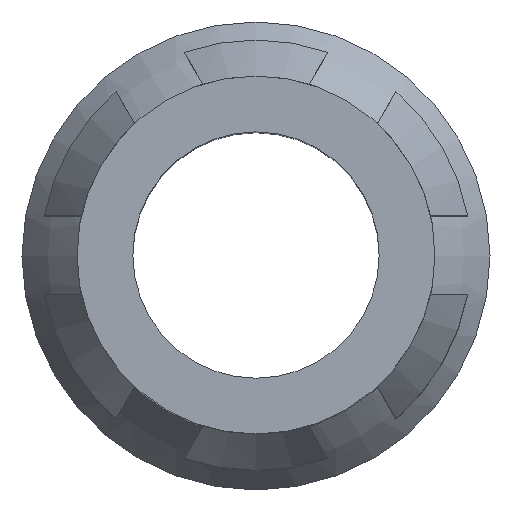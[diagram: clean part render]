
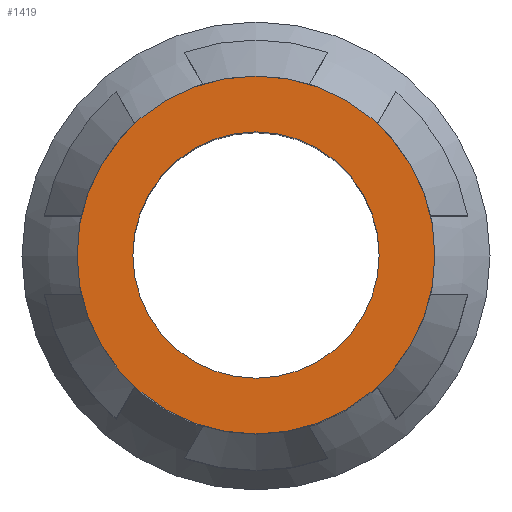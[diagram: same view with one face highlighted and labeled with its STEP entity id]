
A CAD part, top view. The second image highlights one B-rep face of the part: STEP entity #1419.
In plain terms, the highlighted planar face has unit normal (0, 0, 1).
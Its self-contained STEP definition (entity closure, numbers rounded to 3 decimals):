
#63 = EDGE_CURVE ( 'NONE', #970, #970, #1453, .T. ) ;
#207 = EDGE_LOOP ( 'NONE', ( #1758 ) ) ;
#236 = FACE_BOUND ( 'NONE', #207, .T. ) ;
#498 = CARTESIAN_POINT ( 'NONE',  ( 7.871, 0., -13.16 ) ) ;
#507 = CARTESIAN_POINT ( 'NONE',  ( 11.503, 0., -13.16 ) ) ;
#511 = DIRECTION ( 'NONE',  ( 0., 0., -1. ) ) ;
#539 = EDGE_LOOP ( 'NONE', ( #1261 ) ) ;
#566 = CIRCLE ( 'NONE', #1553, 1.816 ) ;
#588 = DIRECTION ( 'NONE',  ( 0., 0., -1. ) ) ;
#863 = PLANE ( 'NONE',  #1172 ) ;
#888 = VERTEX_POINT ( 'NONE', #498 ) ;
#970 = VERTEX_POINT ( 'NONE', #1373 ) ;
#1046 = DIRECTION ( 'NONE',  ( -1., 0., 0. ) ) ;
#1172 = AXIS2_PLACEMENT_3D ( 'NONE', #507, #2091, #1046 ) ;
#1261 = ORIENTED_EDGE ( 'NONE', *, *, #1289, .F. ) ;
#1289 = EDGE_CURVE ( 'NONE', #888, #888, #566, .T. ) ;
#1373 = CARTESIAN_POINT ( 'NONE',  ( 8.437, 0., -13.16 ) ) ;
#1419 = ADVANCED_FACE ( 'NONE', ( #236, #2037 ), #863, .F. ) ;
#1453 = CIRCLE ( 'NONE', #2103, 1.25 ) ;
#1553 = AXIS2_PLACEMENT_3D ( 'NONE', #1568, #511, #1742 ) ;
#1568 = CARTESIAN_POINT ( 'NONE',  ( 9.687, 0., -13.16 ) ) ;
#1647 = CARTESIAN_POINT ( 'NONE',  ( 9.687, 0., -13.16 ) ) ;
#1742 = DIRECTION ( 'NONE',  ( -1., 0., 0. ) ) ;
#1758 = ORIENTED_EDGE ( 'NONE', *, *, #63, .T. ) ;
#1818 = DIRECTION ( 'NONE',  ( -1., 0., 0. ) ) ;
#2037 = FACE_OUTER_BOUND ( 'NONE', #539, .T. ) ;
#2091 = DIRECTION ( 'NONE',  ( 0., 0., -1. ) ) ;
#2103 = AXIS2_PLACEMENT_3D ( 'NONE', #1647, #588, #1818 ) ;
